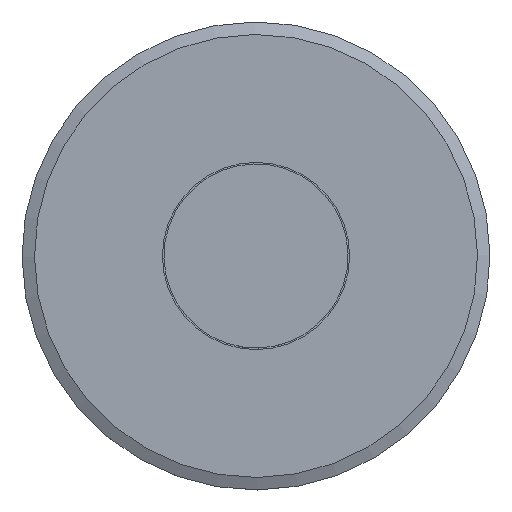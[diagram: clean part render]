
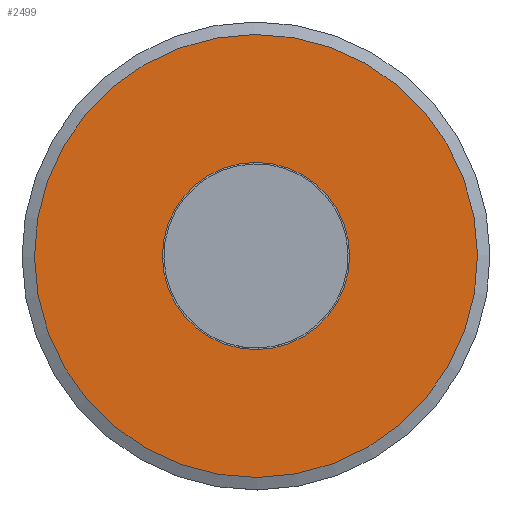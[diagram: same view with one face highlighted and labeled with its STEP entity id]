
A CAD part, top view. The second image highlights one B-rep face of the part: STEP entity #2499.
In plain terms, the highlighted planar face has unit normal (0, 0, 1) as drawn and (0, 1, 0) by its records, which use the part's own axes.
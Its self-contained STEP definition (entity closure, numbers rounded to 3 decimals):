
#1110=PLANE('',#2664);
#1240=VERTEX_POINT('',#3075);
#1248=VERTEX_POINT('',#3098);
#1387=CIRCLE('',#2648,30.);
#1395=CIRCLE('',#2663,71.);
#1505=EDGE_CURVE('',#1240,#1240,#1387,.T.);
#1513=EDGE_CURVE('',#1248,#1248,#1395,.T.);
#1719=ORIENTED_EDGE('',*,*,#1505,.F.);
#1720=ORIENTED_EDGE('',*,*,#1513,.F.);
#2047=EDGE_LOOP('',(#1719));
#2048=EDGE_LOOP('',(#1720));
#2293=FACE_BOUND('',#2047,.T.);
#2294=FACE_BOUND('',#2048,.T.);
#2499=ADVANCED_FACE('',(#2293,#2294),#1110,.T.);
#2648=AXIS2_PLACEMENT_3D('',#3074,#3561,#3562);
#2663=AXIS2_PLACEMENT_3D('',#3097,#3589,#3590);
#2664=AXIS2_PLACEMENT_3D('',#3099,#3591,$);
#3074=CARTESIAN_POINT('',(0.,0.,0.));
#3075=CARTESIAN_POINT('',(30.,0.,0.));
#3097=CARTESIAN_POINT('',(0.,0.,0.));
#3098=CARTESIAN_POINT('',(71.,0.,0.));
#3099=CARTESIAN_POINT('',(52.5,0.,0.));
#3561=DIRECTION('',(0.,1.,0.));
#3562=DIRECTION('',(30.,0.,0.));
#3589=DIRECTION('',(0.,-1.,0.));
#3590=DIRECTION('',(-71.,0.,0.));
#3591=DIRECTION('',(0.,1.,0.));
